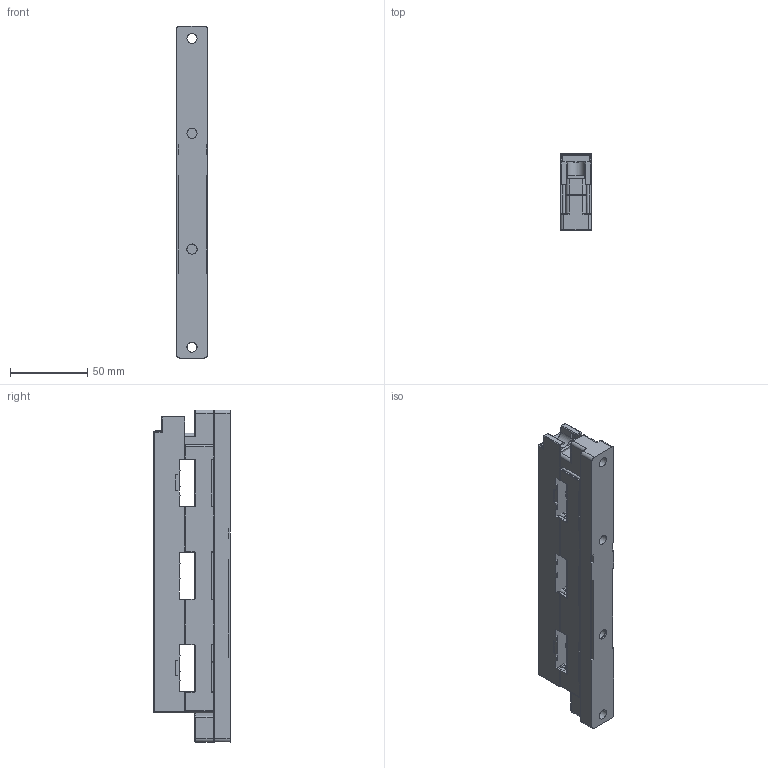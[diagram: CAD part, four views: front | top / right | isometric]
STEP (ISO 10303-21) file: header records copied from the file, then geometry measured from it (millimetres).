
FILE_DESCRIPTION (( 'STEP AP214' ), '1' );
FILE_NAME ('52500.STEP', '2021-08-09T08:02:43', ( '' ), ( '' ), 'SwSTEP 2.0', 'SolidWorks 2017', '' );
FILE_SCHEMA (( 'AUTOMOTIVE_DESIGN' ));
Length unit declared in the file: millimetre
Products named in the file (2): 52500
Bounding box: 20 x 49.5 x 215 mm (x, y, z)
Volume: 177398.4 mm3; surface area: 71022 mm2
Topology: 3 solids, 21 shells, 1821 faces, 4918 edges, 3201 vertices
Faces by surface type: plane 1234, cylinder 408, bspline 153, cone 26
Full cylindrical faces by diameter (mm): 4 x4, 5.2 x4, 5.5 x4, 6.5 x4, 6.682 x1, 6.85 x4, 9 x4, 10 x4, 10.5 x3, 11 x6
Entity records: 84973 total; most frequent: CARTESIAN_POINT 22464, ORIENTED_EDGE 9670, DIRECTION 7927, EDGE_CURVE 4835, VECTOR 3441, LINE 3441, VERTEX_POINT 3180, AXIS2_PLACEMENT_3D 2243
